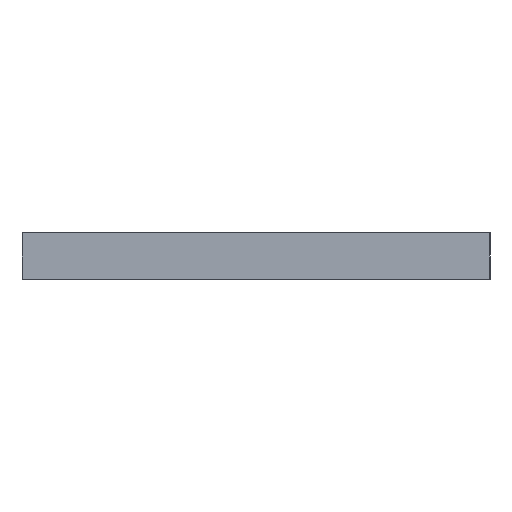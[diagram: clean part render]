
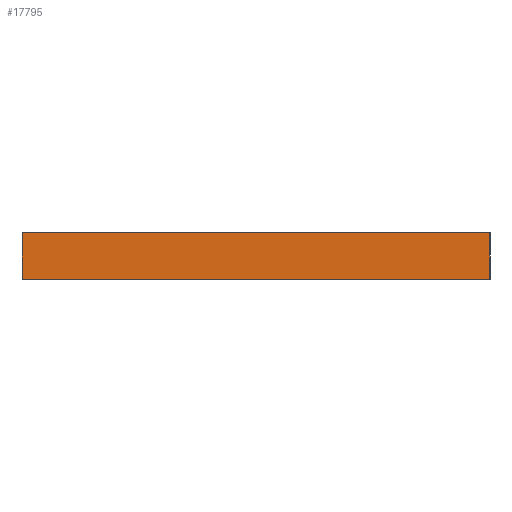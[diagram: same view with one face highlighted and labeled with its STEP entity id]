
A CAD part, left-side view. The second image highlights one B-rep face of the part: STEP entity #17795.
In plain terms, the highlighted planar face has unit normal (-1, 0, 0).
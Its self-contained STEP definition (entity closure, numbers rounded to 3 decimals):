
#407 = DIRECTION ( 'NONE',  ( 0., 1., 0. ) ) ;
#682 = EDGE_CURVE ( 'NONE', #24208, #30172, #19499, .T. ) ;
#788 = VECTOR ( 'NONE', #3653, 1000. ) ;
#1772 = ORIENTED_EDGE ( 'NONE', *, *, #27693, .F. ) ;
#1832 = CARTESIAN_POINT ( 'NONE',  ( -215., 202.5, 0. ) ) ;
#3256 = CARTESIAN_POINT ( 'NONE',  ( -215., -52.5, 25.4 ) ) ;
#3653 = DIRECTION ( 'NONE',  ( 0., 0., 1. ) ) ;
#4375 = EDGE_LOOP ( 'NONE', ( #5764, #1772, #31047, #18339 ) ) ;
#5764 = ORIENTED_EDGE ( 'NONE', *, *, #682, .T. ) ;
#7427 = VECTOR ( 'NONE', #28054, 1000. ) ;
#7887 = CARTESIAN_POINT ( 'NONE',  ( -215., 202.5, 0. ) ) ;
#8038 = FACE_OUTER_BOUND ( 'NONE', #4375, .T. ) ;
#9020 = LINE ( 'NONE', #25413, #11401 ) ;
#9412 = CARTESIAN_POINT ( 'NONE',  ( -215., 202.5, 0. ) ) ;
#10947 = CARTESIAN_POINT ( 'NONE',  ( -215., -52.5, 0. ) ) ;
#11401 = VECTOR ( 'NONE', #407, 1000. ) ;
#12803 = VECTOR ( 'NONE', #29280, 1000. ) ;
#15635 = CARTESIAN_POINT ( 'NONE',  ( -215., -52.5, 0. ) ) ;
#16809 = DIRECTION ( 'NONE',  ( 0., -1., 0. ) ) ;
#16830 = CARTESIAN_POINT ( 'NONE',  ( -215., 202.5, 25.4 ) ) ;
#17795 = ADVANCED_FACE ( 'NONE', ( #8038 ), #29365, .F. ) ;
#18339 = ORIENTED_EDGE ( 'NONE', *, *, #26799, .T. ) ;
#18423 = AXIS2_PLACEMENT_3D ( 'NONE', #9412, #19234, #16809 ) ;
#19234 = DIRECTION ( 'NONE',  ( 1., 0., 0. ) ) ;
#19499 = LINE ( 'NONE', #16830, #12803 ) ;
#22840 = LINE ( 'NONE', #7887, #7427 ) ;
#24208 = VERTEX_POINT ( 'NONE', #3256 ) ;
#24421 = LINE ( 'NONE', #10947, #788 ) ;
#25413 = CARTESIAN_POINT ( 'NONE',  ( -215., 202.5, 0. ) ) ;
#26064 = VERTEX_POINT ( 'NONE', #15635 ) ;
#26249 = CARTESIAN_POINT ( 'NONE',  ( -215., 202.5, 25.4 ) ) ;
#26799 = EDGE_CURVE ( 'NONE', #26064, #24208, #24421, .T. ) ;
#27673 = EDGE_CURVE ( 'NONE', #26064, #31144, #9020, .T. ) ;
#27693 = EDGE_CURVE ( 'NONE', #31144, #30172, #22840, .T. ) ;
#28054 = DIRECTION ( 'NONE',  ( 0., 0., 1. ) ) ;
#29280 = DIRECTION ( 'NONE',  ( 0., 1., 0. ) ) ;
#29365 = PLANE ( 'NONE',  #18423 ) ;
#30172 = VERTEX_POINT ( 'NONE', #26249 ) ;
#31047 = ORIENTED_EDGE ( 'NONE', *, *, #27673, .F. ) ;
#31144 = VERTEX_POINT ( 'NONE', #1832 ) ;
